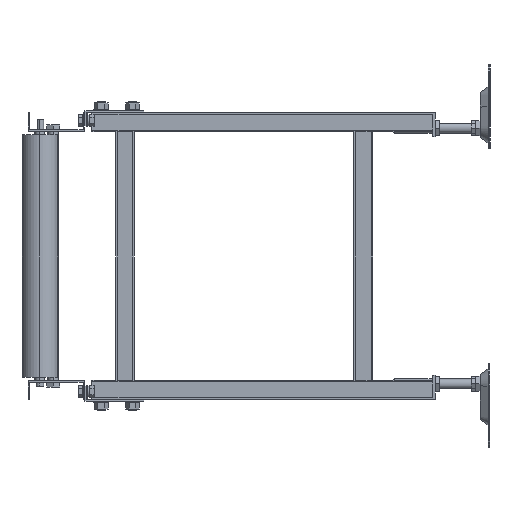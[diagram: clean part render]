
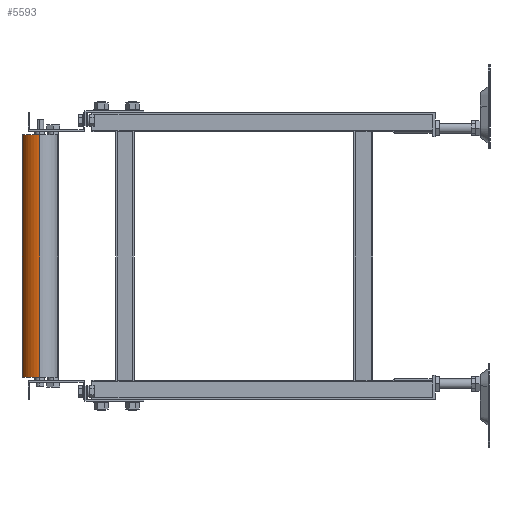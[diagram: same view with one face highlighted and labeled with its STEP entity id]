
A CAD part, left-side view. The second image highlights one B-rep face of the part: STEP entity #5593.
In plain terms, the highlighted cylindrical face has radius 28.6 mm (diameter 57.2 mm), a partial arc.
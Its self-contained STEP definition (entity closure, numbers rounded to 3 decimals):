
#561 = DIRECTION ( 'NONE',  ( -1., 0., 0. ) ) ;
#1736 = DIRECTION ( 'NONE',  ( 0., 0., -1. ) ) ;
#4870 = VECTOR ( 'NONE', #65640, 1000. ) ;
#5593 = ADVANCED_FACE ( 'NONE', ( #62168 ), #37233, .T. ) ;
#6379 = EDGE_CURVE ( 'NONE', #56272, #35477, #44641, .T. ) ;
#11998 = CARTESIAN_POINT ( 'NONE',  ( -2897., -28.6, -230.422 ) ) ;
#12009 = CIRCLE ( 'NONE', #58176, 28.6 ) ;
#13770 = DIRECTION ( 'NONE',  ( 0., 0., -1. ) ) ;
#20418 = CIRCLE ( 'NONE', #47926, 28.6 ) ;
#22107 = VERTEX_POINT ( 'NONE', #33667 ) ;
#22343 = ORIENTED_EDGE ( 'NONE', *, *, #41965, .F. ) ;
#25664 = VERTEX_POINT ( 'NONE', #30715 ) ;
#28266 = DIRECTION ( 'NONE',  ( -1., 0., 0. ) ) ;
#29056 = AXIS2_PLACEMENT_3D ( 'NONE', #11998, #1736, #28266 ) ;
#29326 = CARTESIAN_POINT ( 'NONE',  ( -2868.4, -28.6, -230.422 ) ) ;
#29332 = DIRECTION ( 'NONE',  ( -1., 0., 0. ) ) ;
#30715 = CARTESIAN_POINT ( 'NONE',  ( -2925.6, -28.6, 194. ) ) ;
#31257 = EDGE_LOOP ( 'NONE', ( #61408, #53285, #40790, #22343 ) ) ;
#33667 = CARTESIAN_POINT ( 'NONE',  ( -2925.6, -28.6, -194. ) ) ;
#35477 = VERTEX_POINT ( 'NONE', #53790 ) ;
#37233 = CYLINDRICAL_SURFACE ( 'NONE', #29056, 28.6 ) ;
#37607 = CARTESIAN_POINT ( 'NONE',  ( -2897., -28.6, -194. ) ) ;
#40301 = CARTESIAN_POINT ( 'NONE',  ( -2897., -28.6, 194. ) ) ;
#40790 = ORIENTED_EDGE ( 'NONE', *, *, #54417, .F. ) ;
#41965 = EDGE_CURVE ( 'NONE', #25664, #22107, #45656, .T. ) ;
#44641 = LINE ( 'NONE', #29326, #57037 ) ;
#44901 = EDGE_CURVE ( 'NONE', #25664, #56272, #20418, .T. ) ;
#45656 = LINE ( 'NONE', #58995, #4870 ) ;
#47601 = CARTESIAN_POINT ( 'NONE',  ( -2868.4, -28.6, 194. ) ) ;
#47926 = AXIS2_PLACEMENT_3D ( 'NONE', #40301, #13770, #29332 ) ;
#53285 = ORIENTED_EDGE ( 'NONE', *, *, #6379, .T. ) ;
#53790 = CARTESIAN_POINT ( 'NONE',  ( -2868.4, -28.6, -194. ) ) ;
#54417 = EDGE_CURVE ( 'NONE', #22107, #35477, #12009, .T. ) ;
#56020 = DIRECTION ( 'NONE',  ( 0., 0., -1. ) ) ;
#56272 = VERTEX_POINT ( 'NONE', #47601 ) ;
#57037 = VECTOR ( 'NONE', #56020, 1000. ) ;
#58176 = AXIS2_PLACEMENT_3D ( 'NONE', #37607, #64751, #561 ) ;
#58995 = CARTESIAN_POINT ( 'NONE',  ( -2925.6, -28.6, -230.422 ) ) ;
#61408 = ORIENTED_EDGE ( 'NONE', *, *, #44901, .T. ) ;
#62168 = FACE_OUTER_BOUND ( 'NONE', #31257, .T. ) ;
#64751 = DIRECTION ( 'NONE',  ( 0., 0., -1. ) ) ;
#65640 = DIRECTION ( 'NONE',  ( 0., 0., -1. ) ) ;
